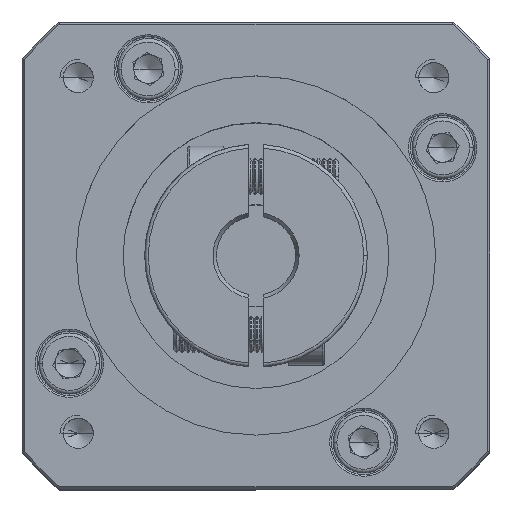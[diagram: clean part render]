
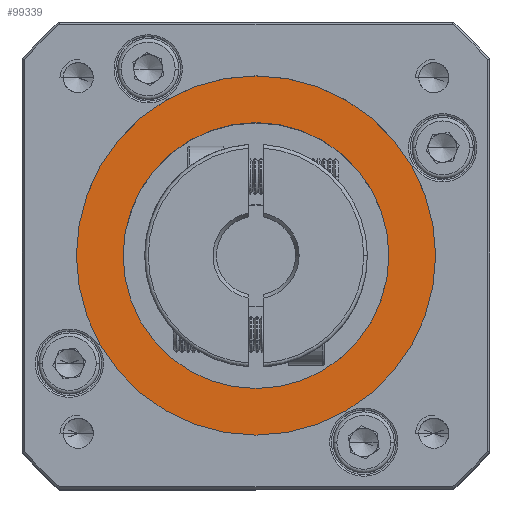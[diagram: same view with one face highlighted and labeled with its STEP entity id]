
A CAD part, top view. The second image highlights one B-rep face of the part: STEP entity #99339.
In plain terms, the highlighted planar face has unit normal (0, 0, 1).
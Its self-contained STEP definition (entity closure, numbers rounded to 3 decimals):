
#932 = CARTESIAN_POINT ( 'NONE',  ( -70.559, 38.277, 30.705 ) ) ;
#1487 = CIRCLE ( 'NONE', #6840, 18.5 ) ;
#6840 = AXIS2_PLACEMENT_3D ( 'NONE', #28105, #87247, #36652 ) ;
#9427 = DIRECTION ( 'NONE',  ( 1., 0., 0. ) ) ;
#17938 = VERTEX_POINT ( 'NONE', #76479 ) ;
#18236 = CARTESIAN_POINT ( 'NONE',  ( -89.059, 38.277, 30.705 ) ) ;
#19717 = AXIS2_PLACEMENT_3D ( 'NONE', #44245, #103285, #52720 ) ;
#27046 = PLANE ( 'NONE',  #31494 ) ;
#27406 = CARTESIAN_POINT ( 'NONE',  ( -70.559, 38.277, 30.705 ) ) ;
#28105 = CARTESIAN_POINT ( 'NONE',  ( -70.559, 38.277, 30.705 ) ) ;
#28792 = EDGE_CURVE ( 'NONE', #60085, #17938, #54101, .T. ) ;
#31494 = AXIS2_PLACEMENT_3D ( 'NONE', #27406, #86538, #35967 ) ;
#32904 = VERTEX_POINT ( 'NONE', #18236 ) ;
#35898 = VERTEX_POINT ( 'NONE', #39354 ) ;
#35967 = DIRECTION ( 'NONE',  ( 1., 0., 0. ) ) ;
#36652 = DIRECTION ( 'NONE',  ( 1., 0., 0. ) ) ;
#39354 = CARTESIAN_POINT ( 'NONE',  ( -52.059, 38.277, 30.705 ) ) ;
#40123 = CARTESIAN_POINT ( 'NONE',  ( -95.559, 38.277, 30.705 ) ) ;
#44245 = CARTESIAN_POINT ( 'NONE',  ( -70.559, 38.277, 30.705 ) ) ;
#45057 = EDGE_CURVE ( 'NONE', #17938, #60085, #79618, .T. ) ;
#46012 = DIRECTION ( 'NONE',  ( 0., 0., -1. ) ) ;
#52006 = FACE_BOUND ( 'NONE', #52950, .T. ) ;
#52720 = DIRECTION ( 'NONE',  ( 1., 0., 0. ) ) ;
#52950 = EDGE_LOOP ( 'NONE', ( #71755, #67453 ) ) ;
#53078 = ORIENTED_EDGE ( 'NONE', *, *, #28792, .T. ) ;
#54101 = CIRCLE ( 'NONE', #71088, 25. ) ;
#60033 = DIRECTION ( 'NONE',  ( 0., 0., 1. ) ) ;
#60085 = VERTEX_POINT ( 'NONE', #40123 ) ;
#67453 = ORIENTED_EDGE ( 'NONE', *, *, #109403, .T. ) ;
#69800 = EDGE_LOOP ( 'NONE', ( #91657, #53078 ) ) ;
#71088 = AXIS2_PLACEMENT_3D ( 'NONE', #932, #60033, #9427 ) ;
#71755 = ORIENTED_EDGE ( 'NONE', *, *, #83384, .T. ) ;
#76479 = CARTESIAN_POINT ( 'NONE',  ( -45.559, 38.277, 30.705 ) ) ;
#79618 = CIRCLE ( 'NONE', #19717, 25. ) ;
#83384 = EDGE_CURVE ( 'NONE', #35898, #32904, #1487, .T. ) ;
#86538 = DIRECTION ( 'NONE',  ( 0., 0., 1. ) ) ;
#87247 = DIRECTION ( 'NONE',  ( 0., 0., -1. ) ) ;
#90250 = CIRCLE ( 'NONE', #98446, 18.5 ) ;
#91657 = ORIENTED_EDGE ( 'NONE', *, *, #45057, .T. ) ;
#96585 = CARTESIAN_POINT ( 'NONE',  ( -70.559, 38.277, 30.705 ) ) ;
#96902 = FACE_OUTER_BOUND ( 'NONE', #69800, .T. ) ;
#98446 = AXIS2_PLACEMENT_3D ( 'NONE', #96585, #46012, #105051 ) ;
#99339 = ADVANCED_FACE ( 'NONE', ( #96902, #52006 ), #27046, .T. ) ;
#103285 = DIRECTION ( 'NONE',  ( 0., 0., 1. ) ) ;
#105051 = DIRECTION ( 'NONE',  ( 1., 0., 0. ) ) ;
#109403 = EDGE_CURVE ( 'NONE', #32904, #35898, #90250, .T. ) ;
